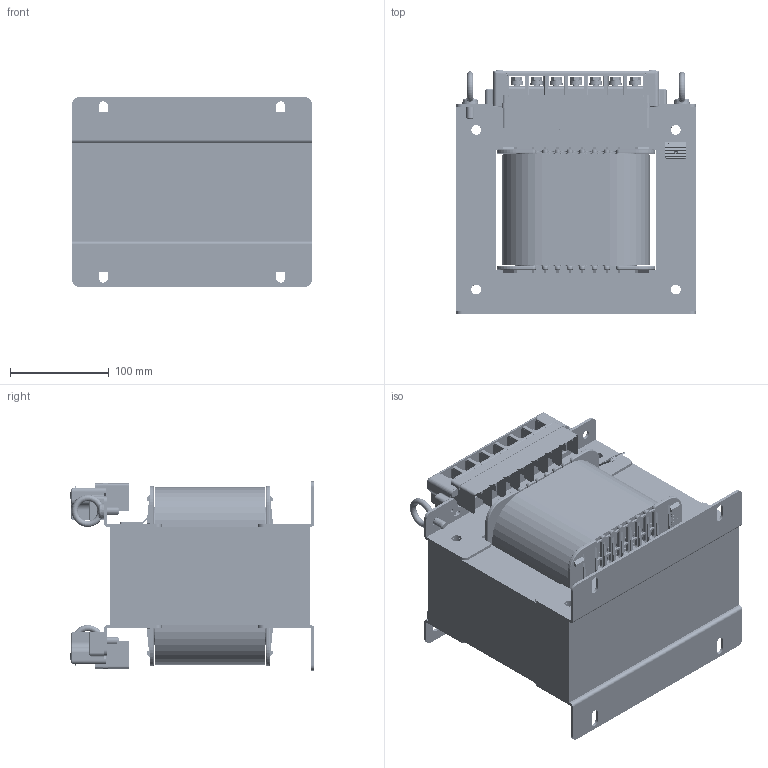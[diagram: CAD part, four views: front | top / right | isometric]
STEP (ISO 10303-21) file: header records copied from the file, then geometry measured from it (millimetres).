
FILE_DESCRIPTION (( 'STEP AP214' ), '1' );
FILE_NAME ('UL TRANS Ass''Y_1P-3kVA_Type A_rev.0.STEP', '2018-10-16T08:25:06', ( 'Registered User' ), ( 'Microsoft Corporation' ), 'SwSTEP 2.0', 'SolidWorks 2018', '' );
FILE_SCHEMA (( 'AUTOMOTIVE_DESIGN' ));
Length unit declared in the file: millimetre
Products named in the file (23): M6x12(HEX); M6(ゎ諦凜); M6(蝶Щ葭諦凜); 180 TERMINAL COVER; 180 欽濠渠 寰瞪 COVER; TRANS 180 欽濠渠_TERMINAL; 180欽濠渠-BODY_REV1; TRANS 243A ANGLE - DN (14.06.16) ; TRANS 243A ANGLE - UP (厘圈,14.11.28); UL TRANS 1P 3KVA BARRIER_P01; 1p 5kva coil; TRANS 5KVA EI CORE(243x100)_P00; 21mm 蕾雖欽濠14.10.31; TRANS BOBBIN(243-100)_P01; eye bolt_ks_KS B 1033 - M8-N-F; 180 欽濠渠 ASS''Y_REV1; UL TRANS Ass''Y_1P-3kVA_Type A_rev.0; 152 欽濠渠_PCB ASS''Y; LED(赤5); 152 欽濠渠_LED PCB; spring lock washer_ks_KS 1324 - M5; conical spring washer (class 1)_ks_KS 1329 C1 - M5 x 1L
Assembly tree (53 placements, depth 4):
  UL TRANS Ass''Y_1P-3kVA_Type A_rev.0
    TRANS BOBBIN(243-100)_P01
    TRANS 5KVA EI CORE(243x100)_P00
    UL TRANS 1P 3KVA BARRIER_P01  x4
    TRANS 243A ANGLE - UP (厘圈,14.11.28)  x2
    TRANS 243A ANGLE - DN (14.06.16)   x2
    180 欽濠渠 ASS''Y_REV1  x2
      180欽濠渠-BODY_REV1
      TRANS 180 欽濠渠_TERMINAL
      180 欽濠渠 寰瞪 COVER
      180 TERMINAL COVER
      M6x12(HEX)
        M6(蝶Щ葭諦凜)
        M6(ゎ諦凜)
        M6x12(HEX)
      conical spring washer (class 1)_ks_KS 1329 C1 - M5 x 1L
      spring lock washer_ks_KS 1324 - M5
      152 欽濠渠_PCB ASS''Y
        152 欽濠渠_LED PCB
        LED(赤5)
    eye bolt_ks_KS B 1033 - M8-N-F  x2
    21mm 蕾雖欽濠14.10.31
    1p 5kva coil
Bounding box: 243 x 248.1 x 192 mm (x, y, z)
Volume: 7504876.5 mm3; surface area: 953894.5 mm2
Topology: 106 solids, 108 shells, 12297 faces, 33742 edges, 21682 vertices
Faces by surface type: plane 7217, cylinder 2720, bspline 1500, torus 430, sphere 218, cone 212
Entity records: 202129 total; most frequent: CARTESIAN_POINT 64246, ORIENTED_EDGE 30282, DIRECTION 25613, EDGE_CURVE 15141, LINE 10677, VECTOR 10677, VERTEX_POINT 9730, AXIS2_PLACEMENT_3D 7468
